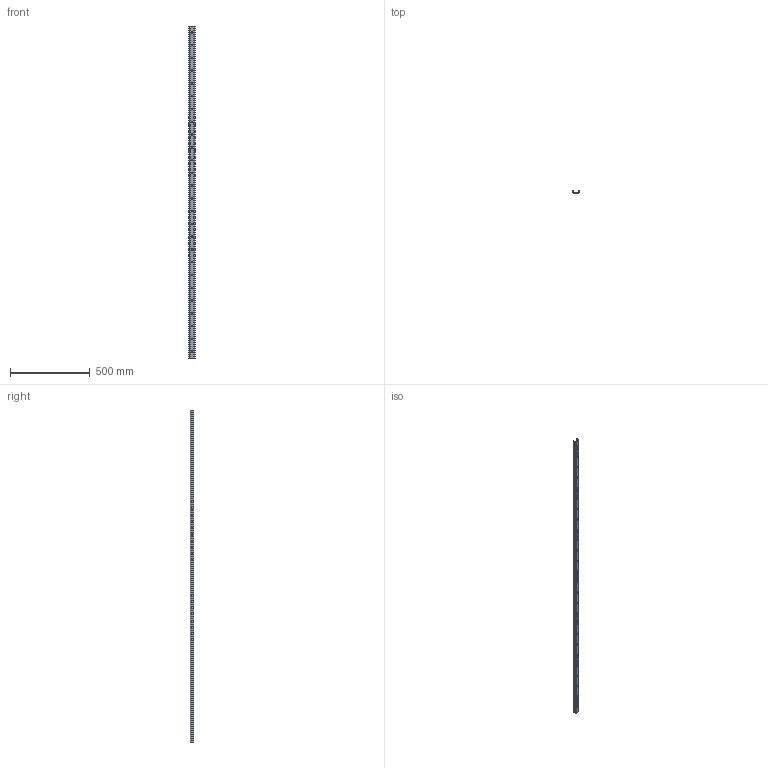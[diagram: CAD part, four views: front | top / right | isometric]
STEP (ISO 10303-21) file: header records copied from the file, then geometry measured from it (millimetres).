
FILE_DESCRIPTION(('STEP AP214'),'1');
FILE_NAME('rail_tex40-2080.stp','2019-03-08T08:33:32',('TraceParts'),('TraceParts S.A.'),'Spatial InterOp 3D',' ',' ');
FILE_SCHEMA(('automotive_design'));
Length unit declared in the file: millimetre
Products named in the file (1): rail_tex40-2080
Bounding box: 39.53 x 21 x 2080 mm (x, y, z)
Volume: 406663.9 mm3; surface area: 286556.1 mm2
Topology: 1 solids, 1 shells, 477 faces, 1236 edges, 824 vertices
Faces by surface type: plane 336, bspline 77, cylinder 64
Entity records: 30153 total; most frequent: CARTESIAN_POINT 14907, ORIENTED_EDGE 2472, DIRECTION 2012, EDGE_CURVE 1236, LINE 954, VECTOR 954, VERTEX_POINT 824, EDGE_LOOP 592
